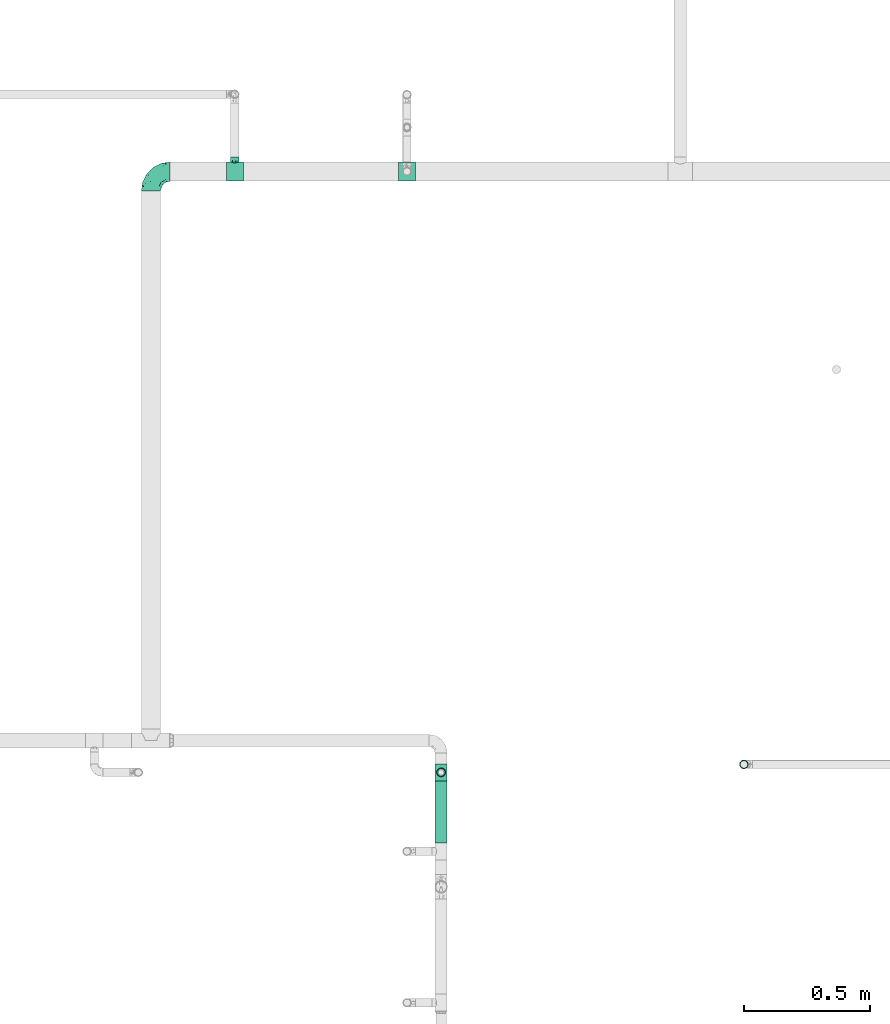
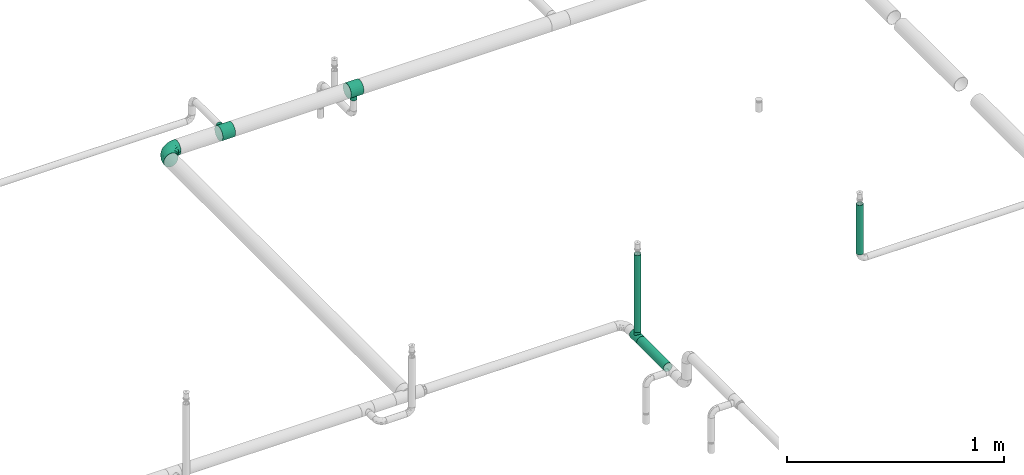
# One storey, part 11 of 157: 4 flow fittings, 3 flow segments.
"""IFC2X3 building model written with IfcOpenShell, lengths in millimetres."""

from ifc_helpers import new_model, entity, si_unit, converted_unit, derived_unit, direction, frame, origin_with_axes, origin_2d_with_axis, place, context, subcontext, project, spatial, hollow_circle, extrude, open_shell, surface_model, source, transform, mapped, type_object, element, save


model = new_model("IFC2X3")

# Units and contexts
model_context = context("Model", 3, precision=0.01, world=frame((0.0, 4.29681676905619e-09, 0.0)), true_north=direction((4.01073788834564e-13, 1.0)))
plan_context = context("Plan", 3, precision=0.01, world=frame((0.0, 4.29681676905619e-09, 0.0)), true_north=direction((4.01073788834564e-13, 1.0)))
body_context = subcontext(model_context, "Body", "Model", "MODEL_VIEW")
ifc_project = project(units=[converted_unit("PLANEANGLEUNIT", "DEGREE", entity("IfcPositiveLengthMeasure", 0.0174532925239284), si_unit("PLANEANGLEUNIT", "RADIAN"), dimensions=[0, 0, 0, 0, 0, 0, 0]), si_unit("AREAUNIT", "SQUARE_METRE"), si_unit("LENGTHUNIT", "METRE", prefix="MILLI"), si_unit("MASSUNIT", "GRAM", prefix="KILO"), si_unit("POWERUNIT", "WATT"), si_unit("PRESSUREUNIT", "PASCAL"), si_unit("FORCEUNIT", "NEWTON", prefix="KILO"), si_unit("ELECTRICCURRENTUNIT", "AMPERE"), si_unit("THERMODYNAMICTEMPERATUREUNIT", "DEGREE_CELSIUS"), si_unit("TIMEUNIT", "SECOND"), si_unit("VOLUMEUNIT", "CUBIC_METRE"), derived_unit("LINEARVELOCITYUNIT", [(si_unit("LENGTHUNIT", "METRE"), 1), (si_unit("TIMEUNIT", "SECOND"), -1)]), derived_unit("VOLUMETRICFLOWRATEUNIT", [(si_unit("VOLUMEUNIT", "CUBIC_METRE"), 1), (si_unit("TIMEUNIT", "SECOND"), -1)]), derived_unit("THERMALTRANSMITTANCEUNIT", [(si_unit("POWERUNIT", "WATT"), 1), (si_unit("THERMODYNAMICTEMPERATUREUNIT", "KELVIN"), -1), (si_unit("AREAUNIT", "SQUARE_METRE"), -1)])], contexts=[model_context, plan_context])

# Site, building, storey
site_placement = place(None, frame((0.0, -4.29681676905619e-09, 0.0), z_axis=(0.0, 0.0, 1.0), x_axis=(1.0, 0.0, 0.0)))
site = spatial("IfcSite", under=ifc_project, at=site_placement, CompositionType="ELEMENT")
building_placement = place(site_placement, frame((0.0, 4.29681676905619e-09, 0.0), z_axis=(0.0, 0.0, 1.0), x_axis=(1.0, 0.0, 0.0)))
building = spatial("IfcBuilding", under=site, at=building_placement, Name="mc-building", CompositionType="ELEMENT")
storey_placement = place(building_placement, frame((0.0, 0.0, 204000.0), z_axis=(0.0, 0.0, 1.0), x_axis=(1.0, 0.0, 0.0)))
storey = spatial("IfcBuildingStorey", under=building, at=storey_placement, Name="Nivå D", CompositionType="ELEMENT", Elevation=204000.0)

# Flow fittings
pipe_fitting_type_1 = type_object("IfcPipeFittingType", Name="magi_pipe_fe_tee_centric_90_NOR", PredefinedType="JUNCTION")
shared_shape_1 = source(origin_with_axes(), body_context, "Body", "SurfaceModel", [
    surface_model("IfcShellBasedSurfaceModel", [(-33.8, 0.0, -24.2), (-33.8, -6.26342, -23.37541), (-33.8, 6.26342, -23.37541), (-33.8, 12.1, -20.95781), (-33.8, 17.11198, -17.11198), (-33.8, 20.95781, -12.1), (-33.8, -23.37541, -6.26342), (-33.8, 23.37541, -6.26342), (-33.8, -17.11198, -17.11198), (-33.8, -20.95781, -12.1), (-33.8, -12.1, -20.95781), (-33.8, -24.2, 0.0), (-33.8, -23.37541, 6.26342), (-33.8, 20.95781, 12.1), (-33.8, 23.37541, 6.26342), (-33.8, 24.2, 0.0), (-33.8, 12.1, 20.95781), (-33.8, 17.11198, 17.11198), (-33.8, -17.11198, 17.11198), (-33.8, 6.26342, 23.37541), (-33.8, -20.95781, 12.1), (-33.8, -12.1, 20.95781), (-33.8, -6.26342, 23.37541), (-33.8, 0.0, 24.2), (33.8, 6.26342, -23.37541), (33.8, -6.26342, -23.37541), (33.8, 0.0, -24.2), (33.8, 17.11198, -17.11198), (33.8, 12.1, -20.95781), (33.8, -23.37541, -6.26342), (33.8, 20.95781, -12.1), (33.8, 23.37541, -6.26342), (33.8, -17.11198, -17.11198), (33.8, -12.1, -20.95781), (33.8, -20.95781, -12.1), (33.8, -24.2, 0.0), (33.8, 24.2, 0.0), (33.8, 23.37541, 6.26342), (33.8, 20.95781, 12.1), (33.8, -23.37541, 6.26342), (33.8, -17.11198, 17.11198), (33.8, 12.1, 20.95781), (33.8, 17.11198, 17.11198), (33.8, 6.26342, 23.37541), (33.8, -20.95781, 12.1), (33.8, -12.1, 20.95781), (33.8, 0.0, 24.2), (33.8, -6.26342, 23.37541), (15.81824, -23.45734, 5.94922), (16.9, -24.2, 0.0), (12.87025, -21.57947, 10.95293), (33.8, -19.0349, 14.60599), (8.52813, -19.30697, 14.59044), (3.03527, -17.5853, 16.6252), (-3.04044, -17.58619, 16.62425), (-8.52961, -19.30762, 14.58958), (-33.8, -19.0349, 14.60599), (-16.9, -24.2, 0.0), (-15.81885, -23.45775, 5.9476), (-12.87368, -21.58151, 10.9489), (3.03527, -17.5853, -16.6252), (33.8, -19.0349, -14.60599), (8.52813, -19.30697, -14.59044), (-8.52961, -19.30762, -14.58958), (-33.8, -19.0349, -14.60599), (12.87025, -21.57947, -10.95293), (-3.04044, -17.58619, -16.62425), (15.81824, -23.45734, -5.94922), (-12.87368, -21.58151, -10.9489), (-15.81885, -23.45775, -5.9476), (4.37404, -36.3, -16.32415), (-16.9, -36.3, 0.0), (0.0, -36.3, -16.9), (14.63583, -36.3, -8.45), (8.45, -36.3, -14.63583), (16.32415, -36.3, -4.37404), (11.9501, -36.3, -11.9501), (-11.9501, -36.3, -11.9501), (-8.45, -36.3, -14.63583), (-4.37404, -36.3, -16.32415), (-14.63583, -36.3, -8.45), (-16.32415, -36.3, -4.37404), (16.9, -36.3, 0.0), (8.45, -36.3, 14.63583), (16.32415, -36.3, 4.37404), (14.63583, -36.3, 8.45), (-8.45, -36.3, 14.63583), (11.9501, -36.3, 11.9501), (4.37404, -36.3, 16.32415), (-16.32415, -36.3, 4.37404), (-11.9501, -36.3, 11.9501), (-14.63583, -36.3, 8.45), (0.0, -36.3, 16.9), (-4.37404, -36.3, 16.32415), (-16.35943, -23.82888, 2.9738), (16.35912, -23.82867, 2.97461), (-0.00259, -17.58575, 16.62472), (16.35912, -23.82867, -2.97461), (-0.00259, -17.58575, -16.62472), (-16.35943, -23.82888, -2.9738)], [open_shell([[[0, 1, 2]], [[3, 2, 4]], [[5, 2, 6]], [[4, 2, 5]], [[7, 5, 6]], [[8, 9, 10]], [[1, 10, 9]], [[1, 9, 2]], [[9, 6, 2]], [[6, 11, 7]], [[11, 12, 7]], [[13, 14, 15]], [[13, 15, 12]], [[16, 17, 18]], [[12, 17, 13]], [[19, 16, 18]], [[20, 18, 12]], [[18, 17, 12]], [[21, 22, 18]], [[23, 18, 22]], [[18, 23, 19]], [[7, 12, 15]], [[24, 25, 26]], [[27, 24, 28]], [[29, 24, 30]], [[30, 24, 27]], [[29, 30, 31]], [[25, 32, 33]], [[32, 25, 34]], [[24, 34, 25]], [[24, 29, 34]], [[31, 35, 29]], [[31, 36, 35]], [[36, 37, 38]], [[39, 36, 38]], [[40, 38, 41]], [[41, 38, 42]], [[40, 41, 43]], [[39, 40, 44]], [[39, 38, 40]], [[45, 46, 47]], [[46, 45, 40]], [[43, 46, 40]], [[36, 39, 35]], [[35, 39, 48]], [[48, 49, 35]], [[39, 50, 48]], [[51, 40, 52]], [[52, 50, 44]], [[53, 52, 40]], [[54, 53, 21]], [[44, 50, 39]], [[55, 18, 56]], [[57, 58, 11]], [[12, 11, 58]], [[58, 59, 12]], [[55, 54, 18]], [[55, 20, 59]], [[20, 55, 56]], [[59, 20, 12]], [[18, 54, 21]], [[52, 44, 51]], [[53, 40, 45]], [[23, 47, 46]], [[22, 45, 47]], [[19, 46, 43]], [[38, 37, 14]], [[17, 41, 42]], [[13, 42, 38]], [[43, 41, 16]], [[15, 37, 36]], [[21, 45, 22]], [[22, 47, 23]], [[19, 23, 46]], [[43, 16, 19]], [[16, 41, 17]], [[13, 17, 42]], [[14, 13, 38]], [[37, 15, 14]], [[45, 21, 53]], [[5, 31, 30]], [[7, 36, 31]], [[4, 30, 27]], [[26, 25, 1]], [[2, 28, 24]], [[0, 24, 26]], [[27, 28, 3]], [[10, 25, 33]], [[15, 36, 7]], [[7, 31, 5]], [[4, 5, 30]], [[27, 3, 4]], [[3, 28, 2]], [[0, 2, 24]], [[1, 0, 26]], [[25, 10, 1]], [[33, 60, 10]], [[61, 34, 62]], [[63, 9, 64]], [[62, 60, 32]], [[34, 65, 62]], [[66, 10, 60]], [[29, 35, 67]], [[67, 65, 29]], [[49, 67, 35]], [[29, 65, 34]], [[66, 63, 8]], [[62, 32, 61]], [[64, 8, 63]], [[63, 68, 9]], [[8, 10, 66]], [[68, 69, 6]], [[69, 11, 6]], [[11, 69, 57]], [[68, 6, 9]], [[60, 33, 32]], [[70, 71, 72]], [[73, 70, 74]], [[73, 75, 70]], [[73, 74, 76]], [[71, 70, 75]], [[72, 77, 78]], [[78, 79, 72]], [[80, 71, 81]], [[77, 72, 80]], [[71, 80, 72]], [[75, 82, 71]], [[83, 82, 84]], [[83, 84, 85]], [[86, 71, 83]], [[83, 85, 87]], [[86, 83, 88]], [[89, 90, 91]], [[90, 89, 86]], [[86, 92, 93]], [[89, 71, 86]], [[88, 92, 86]], [[83, 71, 82]], [[89, 94, 71]], [[59, 91, 90]], [[89, 91, 58]], [[90, 86, 55]], [[89, 58, 94]], [[94, 57, 71]], [[58, 91, 59]], [[95, 48, 84]], [[55, 93, 54]], [[55, 59, 90]], [[92, 53, 96]], [[55, 86, 93]], [[53, 92, 88]], [[83, 52, 88]], [[87, 85, 50]], [[87, 52, 83]], [[48, 85, 84]], [[87, 50, 52]], [[52, 53, 88]], [[82, 95, 84]], [[48, 50, 85]], [[95, 82, 49]], [[92, 54, 93]], [[96, 54, 92]], [[75, 97, 82]], [[65, 73, 76]], [[75, 73, 67]], [[76, 74, 62]], [[97, 49, 82]], [[67, 73, 65]], [[62, 70, 60]], [[62, 65, 76]], [[72, 66, 98]], [[62, 74, 70]], [[99, 71, 57]], [[99, 69, 81]], [[75, 67, 97]], [[79, 66, 72]], [[69, 80, 81]], [[77, 80, 68]], [[72, 60, 70]], [[79, 63, 66]], [[63, 79, 78]], [[78, 77, 63]], [[63, 77, 68]], [[68, 80, 69]], [[71, 99, 81]], [[98, 60, 72]]])]),
])
flow_fitting_1_placement = place(storey_placement, frame((521635.35, 413913.20018, 2690.0), z_axis=(-1.0, 0.0, 0.0), x_axis=(0.0, 1.0, 0.0)))
element("IfcFlowFitting", 1, at=flow_fitting_1_placement, inside=storey, type_object=pipe_fitting_type_1, Name="magi_pipe_fe_tee_centric_90_NOR", context=body_context, shape_type="MappedRepresentation", body=[
    mapped(shared_shape_1, transform((0.0, 0.0, 0.0), scale=1.0)),
])
pipe_fitting_type_2 = type_object("IfcPipeFittingType", Name="magi_pipe_fe_elbow_short_001", PredefinedType="BEND")
shared_shape_2 = source(origin_with_axes(), body_context, "Body", "SurfaceModel", [
    surface_model("IfcShellBasedSurfaceModel", [(-76.2, 19.05, -32.99557), (-76.2, 9.86101, -36.80177), (-76.2, 0.0, -38.1), (-76.2, 26.94077, -26.94077), (-76.2, 36.80177, -9.86101), (-76.2, 32.99557, -19.05), (-76.2, -26.94077, -26.94077), (-76.2, -36.80177, -9.86101), (-76.2, -19.05, -32.99557), (-76.2, -9.86101, -36.80177), (-76.2, -32.99557, -19.05), (-76.2, -38.1, 0.0), (-76.2, -36.80177, 9.86101), (-76.2, 26.94077, 26.94077), (-76.2, 36.80177, 9.86101), (-76.2, 32.99557, 19.05), (-76.2, 9.86101, 36.80177), (-76.2, 19.05, 32.99557), (-76.2, 0.0, 38.1), (-76.2, -32.99557, 19.05), (-76.2, -26.94077, 26.94077), (-76.2, -9.86101, 36.80177), (-76.2, -19.05, 32.99557), (-76.2, 38.1, 0.0), (0.0, 76.2, -38.1), (-9.86101, 76.2, -36.80177), (-19.05, 76.2, -32.99557), (-26.94077, 76.2, -26.94077), (-32.99557, 76.2, -19.05), (-36.80177, 76.2, -9.86101), (26.94077, 76.2, -26.94077), (36.80177, 76.2, -9.86101), (9.86101, 76.2, -36.80177), (19.05, 76.2, -32.99557), (32.99557, 76.2, -19.05), (36.80177, 76.2, 9.86101), (38.1, 76.2, 0.0), (-36.80177, 76.2, 9.86101), (-26.94077, 76.2, 26.94077), (-32.99557, 76.2, 19.05), (-19.05, 76.2, 32.99557), (-9.86101, 76.2, 36.80177), (0.0, 76.2, 38.1), (26.94077, 76.2, 26.94077), (32.99557, 76.2, 19.05), (9.86101, 76.2, 36.80177), (19.05, 76.2, 32.99557), (-38.1, 76.2, 0.0), (-51.47253, -33.41495, 11.97429), (-55.87921, -29.59735, 21.38675), (-40.87936, -32.50576, 0.0), (-57.46182, -35.13216, 0.0), (-9.7569, -13.15819, 14.69187), (-2.65186, -10.17769, 8.01257), (2.20082, -2.20082, 15.78668), (-58.2046, -5.04721, 37.4484), (-53.35237, 5.84022, 38.03506), (13.01533, 9.30417, 14.3119), (23.26567, 31.00373, 18.95093), (8.92292, 13.82363, 24.31711), (-37.93212, -0.34191, 36.92855), (-55.73356, -14.37507, 34.26516), (-29.5907, -8.99996, 31.84562), (-48.87429, -21.76577, 28.30344), (-34.13735, -29.20196, 7.83838), (-24.94775, -24.3882, 0.0), (-13.82363, -8.92292, 24.31711), (-6.80575, 6.80575, 31.14998), (-37.24299, 60.80967, 16.55959), (-31.82754, 59.31737, 25.03043), (-14.22204, 65.71998, 35.68746), (-5.22176, 56.99222, 38.00642), (-58.73143, 14.94265, 35.9909), (-9.94517, 25.51838, 37.4103), (-18.93111, 6.98952, 35.57772), (-3.89226, 20.58438, 35.01344), (-65.91802, 23.07271, 31.04479), (-13.24152, 37.4675, 38.03164), (-28.22122, 28.22122, 37.17425), (-22.68668, 16.64938, 37.90374), (-60.23482, 40.58212, 8.37688), (-60.8286, 37.23683, 16.55705), (-47.30619, 47.30619, 14.2421), (-59.55922, 31.76102, 25.00381), (21.76577, 48.87429, 28.30344), (-39.51357, 50.50487, 21.56421), (14.37507, 55.73356, 34.26516), (29.59735, 55.87921, 21.38675), (33.41495, 51.47253, 11.97429), (-9.01615, -16.27064, 0.0), (-18.50075, -20.95742, 9.87146), (5.04721, 58.2046, 37.4484), (-41.86713, 16.32002, 37.41817), (-37.38612, 9.33613, 38.08374), (24.3882, 24.94775, 0.0), (29.20196, 34.13735, 7.83838), (20.95742, 18.50075, 9.87146), (35.13216, 57.46182, 0.0), (-40.50473, 25.85184, 35.24027), (-31.00373, -23.26567, 18.95093), (-27.62233, 49.24446, 32.02197), (-23.27638, 63.88751, 31.20285), (-40.10509, 61.46399, 8.17366), (-47.75011, 49.97248, 6.70535), (17.55292, 30.69115, 25.82241), (8.99996, 29.5907, 31.84562), (-43.20443, 57.15, 0.0), (-35.27088, 40.23417, 31.3068), (-52.46543, 25.86294, 32.08413), (-0.58232, 0.58231, 22.50977), (-21.74145, 39.43998, 36.62577), (-30.35377, 36.8865, 34.66668), (-16.47755, 51.62643, 36.28492), (-40.16133, 42.54966, 26.98796), (-48.93373, 40.93898, 21.24545), (0.34191, 37.93212, 36.92855), (-30.54899, -16.70018, 26.56572), (10.38979, 2.76708, 7.59679), (32.50576, 40.87936, 0.0), (16.27064, 9.01615, 0.0), (-57.15, 43.20443, 0.0), (3.62725, -3.62725, 0.0), (-56.18403, 32.81229, -25.37784), (-60.79374, 37.24818, -16.56172), (-31.12583, -9.61531, -31.96506), (-33.08389, -0.47526, -36.23756), (-15.30809, -0.63756, -31.219), (-60.31522, 4.8175, -37.976), (-55.58208, -34.10815, -12.42093), (-47.87166, -28.25416, -20.6363), (-36.35476, -28.57081, -12.78243), (-55.4317, 15.55274, -36.12913), (-41.97308, 9.00674, -38.09177), (-32.8123, 56.18403, -25.37784), (-61.68117, 39.97816, -8.33686), (-23.91371, 59.81378, -31.51803), (-15.55274, 55.4317, -36.12913), (-48.48008, 48.48008, -9.09668), (22.76239, 55.12076, -28.76608), (13.14871, 48.24989, -33.88525), (15.02018, 64.34702, -34.67535), (-7.42295, -13.4022, -10.03386), (-7.53093, -9.8797, -17.36177), (4.09889, -3.23385, -10.05311), (-22.23209, 20.60173, -38.07837), (-36.11879, 22.54399, -36.96599), (-59.81378, 23.91371, -31.51803), (-64.14494, -30.32973, -22.13621), (-37.06617, 43.2809, -28.69704), (-35.21221, 35.21221, -33.45314), (-46.56802, 32.18433, -30.26847), (3.32253, -0.70027, -16.3296), (-55.12076, -22.76239, -28.76608), (28.25416, 47.87166, -20.6363), (34.10815, 55.58208, -12.42093), (28.57081, 36.35476, -12.78243), (-64.34702, -15.02018, -34.67535), (4.80394, 56.13349, -37.40338), (-24.08639, -18.54476, -20.78452), (-28.44745, -15.54194, -26.65272), (-13.81153, -9.41447, -23.82138), (-41.58053, -17.39667, -29.91543), (-48.24989, -13.14871, -33.88525), (-56.1335, -4.80394, -37.40338), (-28.5499, 46.87201, -32.27447), (-39.97816, 61.68117, -8.33686), (-4.8175, 60.31522, -37.976), (-13.45022, 13.45022, -35.97664), (0.47526, 33.08389, -36.23756), (1.60394, 17.89715, -31.77365), (-37.24818, 60.79374, -16.56172), (-45.75928, 45.75928, -18.77942), (30.32973, 64.14494, -22.13621), (22.08018, 30.6107, -20.46174), (12.28189, 14.44402, -21.13272), (15.54194, 28.44745, -26.65272), (7.87454, 32.5264, -33.28409), (-9.00674, 41.97308, -38.09177), (-46.32128, 24.51975, -34.33978), (-22.71812, 37.0764, -36.7817), (-0.36118, 0.36118, -22.07635), (-17.64772, -21.30183, -6.55407), (19.53658, 18.92928, -14.18962), (21.30183, 17.64772, -6.55407), (4.4885, 11.61303, -26.72553), (-18.92929, -19.53658, -14.18962)], [open_shell([[[0, 1, 2]], [[3, 0, 2]], [[4, 5, 3]], [[6, 3, 2]], [[4, 3, 7]], [[8, 6, 9]], [[6, 2, 9]], [[10, 7, 6]], [[6, 7, 3]], [[11, 12, 7]], [[12, 4, 7]], [[13, 14, 4]], [[15, 14, 13]], [[16, 17, 13]], [[4, 12, 13]], [[13, 18, 16]], [[19, 20, 12]], [[21, 12, 20]], [[22, 21, 20]], [[21, 13, 12]], [[21, 18, 13]], [[23, 4, 14]], [[24, 25, 26]], [[24, 26, 27]], [[27, 28, 29]], [[24, 27, 30]], [[31, 27, 29]], [[32, 30, 33]], [[32, 24, 30]], [[30, 31, 34]], [[27, 31, 30]], [[31, 35, 36]], [[31, 29, 35]], [[29, 37, 38]], [[38, 37, 39]], [[38, 40, 41]], [[29, 38, 35]], [[42, 38, 41]], [[35, 43, 44]], [[43, 35, 45]], [[43, 45, 46]], [[35, 38, 45]], [[38, 42, 45]], [[37, 29, 47]], [[48, 49, 19]], [[50, 48, 51]], [[52, 53, 54]], [[12, 48, 19]], [[12, 51, 48]], [[18, 55, 56]], [[19, 49, 20]], [[57, 58, 59]], [[60, 61, 62]], [[63, 22, 20]], [[63, 61, 22]], [[64, 50, 65]], [[62, 66, 67]], [[39, 68, 69]], [[41, 70, 71]], [[16, 72, 17]], [[73, 74, 75]], [[17, 76, 13]], [[21, 55, 18]], [[77, 78, 79]], [[80, 81, 82]], [[15, 83, 81]], [[84, 43, 46]], [[23, 14, 80]], [[14, 15, 81]], [[68, 85, 69]], [[83, 15, 13]], [[18, 56, 16]], [[46, 86, 84]], [[13, 76, 83]], [[87, 58, 88]], [[39, 37, 68]], [[89, 90, 65]], [[42, 91, 45]], [[65, 90, 64]], [[42, 41, 71]], [[92, 93, 79]], [[88, 35, 44]], [[44, 43, 87]], [[87, 88, 44]], [[94, 95, 96]], [[88, 97, 35]], [[98, 72, 92]], [[49, 99, 63]], [[69, 100, 101]], [[82, 102, 103]], [[104, 105, 59]], [[106, 102, 47]], [[98, 107, 108]], [[102, 82, 68]], [[86, 46, 45]], [[69, 38, 39]], [[109, 54, 57]], [[110, 100, 111]], [[22, 61, 21]], [[101, 40, 38]], [[70, 41, 40]], [[112, 77, 71]], [[84, 86, 105]], [[96, 95, 58]], [[100, 69, 113]], [[72, 16, 56]], [[108, 113, 83]], [[81, 114, 82]], [[112, 110, 77]], [[91, 71, 115]], [[62, 61, 63]], [[55, 61, 60]], [[116, 99, 66]], [[74, 62, 67]], [[91, 86, 45]], [[105, 86, 115]], [[75, 105, 115]], [[109, 67, 66]], [[59, 105, 67]], [[48, 64, 99]], [[99, 49, 48]], [[63, 20, 49]], [[43, 84, 87]], [[58, 87, 84]], [[92, 72, 56]], [[76, 72, 108]], [[102, 68, 37]], [[82, 114, 85]], [[98, 111, 107]], [[112, 70, 101]], [[114, 83, 113]], [[82, 103, 80]], [[92, 79, 78]], [[115, 71, 77]], [[74, 79, 60]], [[77, 79, 73]], [[71, 91, 42]], [[86, 91, 115]], [[61, 55, 21]], [[56, 55, 60]], [[57, 54, 117]], [[104, 59, 58]], [[116, 66, 62]], [[52, 99, 90]], [[12, 11, 51]], [[97, 88, 118]], [[97, 36, 35]], [[53, 90, 89]], [[90, 53, 52]], [[94, 96, 119]], [[88, 95, 118]], [[117, 54, 53]], [[92, 56, 93]], [[98, 92, 78]], [[111, 98, 78]], [[72, 98, 108]], [[110, 111, 78]], [[107, 111, 100]], [[47, 102, 37]], [[102, 106, 103]], [[106, 120, 103]], [[103, 120, 80]], [[23, 80, 120]], [[14, 81, 80]], [[56, 60, 93]], [[60, 79, 93]], [[117, 121, 119]], [[121, 117, 53]], [[53, 89, 121]], [[119, 96, 117]], [[117, 96, 57]], [[77, 110, 78]], [[100, 110, 112]], [[83, 114, 81]], [[85, 114, 113]], [[69, 85, 113]], [[82, 85, 68]], [[109, 52, 54]], [[99, 52, 66]], [[69, 101, 38]], [[112, 101, 100]], [[100, 113, 107]], [[108, 107, 113]], [[62, 74, 60]], [[75, 74, 67]], [[105, 75, 67]], [[73, 75, 115]], [[77, 73, 115]], [[74, 73, 79]], [[99, 64, 90]], [[50, 64, 48]], [[118, 95, 94]], [[58, 95, 88]], [[58, 57, 96]], [[109, 57, 59]], [[72, 76, 17]], [[83, 76, 108]], [[101, 70, 40]], [[71, 70, 112]], [[58, 84, 104]], [[105, 104, 84]], [[67, 109, 59]], [[52, 109, 66]], [[62, 63, 116]], [[99, 116, 63]], [[122, 5, 123]], [[124, 125, 126]], [[2, 1, 127]], [[128, 129, 130]], [[127, 131, 132]], [[28, 27, 133]], [[120, 134, 23]], [[135, 26, 136]], [[123, 134, 137]], [[138, 139, 140]], [[122, 3, 5]], [[141, 142, 143]], [[144, 132, 145]], [[131, 0, 146]], [[128, 10, 147]], [[148, 149, 150]], [[128, 51, 7]], [[142, 151, 143]], [[152, 6, 8]], [[153, 154, 155]], [[156, 152, 8]], [[32, 157, 24]], [[158, 159, 160]], [[147, 10, 6]], [[129, 152, 161]], [[156, 8, 9]], [[162, 163, 125]], [[154, 34, 31]], [[120, 106, 137]], [[149, 148, 164]], [[47, 29, 165]], [[163, 9, 2]], [[5, 4, 123]], [[25, 166, 136]], [[167, 168, 169]], [[170, 133, 171]], [[25, 24, 166]], [[33, 30, 138]], [[157, 32, 140]], [[29, 28, 170]], [[30, 34, 172]], [[26, 135, 27]], [[132, 131, 145]], [[32, 33, 140]], [[173, 174, 175]], [[169, 168, 176]], [[25, 136, 26]], [[175, 138, 173]], [[168, 177, 157]], [[163, 162, 156]], [[153, 172, 154]], [[10, 128, 7]], [[154, 97, 118]], [[131, 178, 145]], [[0, 3, 146]], [[175, 139, 138]], [[155, 118, 94]], [[131, 1, 0]], [[146, 178, 131]], [[170, 137, 165]], [[149, 179, 145]], [[171, 133, 148]], [[160, 180, 142]], [[65, 181, 89]], [[170, 165, 29]], [[137, 171, 123]], [[172, 138, 30]], [[138, 153, 173]], [[168, 157, 139]], [[166, 157, 177]], [[176, 175, 169]], [[168, 167, 144]], [[154, 31, 97]], [[155, 182, 173]], [[162, 124, 161]], [[147, 152, 129]], [[127, 163, 2]], [[132, 144, 125]], [[132, 125, 163]], [[125, 167, 126]], [[129, 158, 130]], [[31, 36, 97]], [[143, 182, 183]], [[169, 126, 167]], [[3, 122, 146]], [[178, 150, 149]], [[136, 179, 164]], [[133, 27, 135]], [[123, 4, 134]], [[122, 123, 171]], [[133, 170, 28]], [[137, 170, 171]], [[184, 175, 174]], [[180, 160, 126]], [[126, 169, 184]], [[126, 159, 124]], [[51, 128, 50]], [[51, 11, 7]], [[131, 127, 1]], [[163, 127, 132]], [[157, 166, 24]], [[136, 166, 177]], [[164, 179, 149]], [[144, 167, 125]], [[179, 144, 145]], [[168, 144, 177]], [[136, 177, 179]], [[144, 179, 177]], [[141, 121, 89]], [[89, 181, 141]], [[154, 118, 155]], [[183, 155, 94]], [[143, 183, 119]], [[119, 183, 94]], [[155, 183, 182]], [[181, 130, 185]], [[50, 128, 130]], [[130, 181, 65]], [[50, 130, 65]], [[141, 181, 185]], [[142, 141, 185]], [[143, 121, 141]], [[158, 160, 142]], [[142, 180, 151]], [[158, 142, 185]], [[126, 160, 159]], [[130, 158, 185]], [[129, 159, 158]], [[23, 134, 4]], [[120, 137, 134]], [[137, 106, 165]], [[47, 165, 106]], [[174, 151, 180]], [[182, 143, 151]], [[150, 146, 122]], [[149, 145, 178]], [[146, 150, 178]], [[122, 171, 148]], [[148, 150, 122]], [[164, 133, 135]], [[133, 164, 148]], [[164, 135, 136]], [[138, 140, 33]], [[157, 140, 139]], [[154, 172, 34]], [[138, 172, 153]], [[163, 156, 9]], [[152, 156, 162]], [[152, 147, 6]], [[128, 147, 129]], [[155, 173, 153]], [[174, 173, 182]], [[151, 174, 182]], [[174, 180, 184]], [[126, 184, 180]], [[175, 184, 169]], [[168, 139, 176]], [[175, 176, 139]], [[161, 124, 159]], [[125, 124, 162]], [[129, 161, 159]], [[162, 161, 152]], [[143, 119, 121]]])]),
])
flow_fitting_2_placement = place(storey_placement, frame((520485.24954, 416294.70476, 2690.0), z_axis=(0.0, 0.0, 1.0), x_axis=(-1.0, 0.0, 0.0)))
element("IfcFlowFitting", 2, at=flow_fitting_2_placement, inside=storey, type_object=pipe_fitting_type_2, Name="magi_pipe_fe_elbow_short_001", context=body_context, shape_type="MappedRepresentation", body=[
    mapped(shared_shape_2, transform((0.0, 0.0, 0.0), scale=1.0)),
])
shared_shape_3 = source(origin_with_axes(), body_context, "Body", "SurfaceModel", [
    surface_model("IfcShellBasedSurfaceModel", [(-33.8, 9.86101, -36.80177), (-33.8, 0.0, -38.1), (-33.8, 36.80177, -9.86101), (-33.8, 19.05, -32.99557), (-33.8, 32.99557, -19.05), (-33.8, 26.94077, -26.94077), (-33.8, -38.1, 0.0), (-33.8, -19.05, -32.99557), (-33.8, -26.94077, -26.94077), (-33.8, -9.86101, -36.80177), (-33.8, -32.99557, -19.05), (-33.8, -36.80177, -9.86101), (-33.8, 38.1, 0.0), (-33.8, 32.99557, 19.05), (-33.8, 36.80177, 9.86101), (-33.8, -36.80177, 9.86101), (-33.8, 19.05, 32.99557), (-33.8, 26.94077, 26.94077), (-33.8, 9.86101, 36.80177), (-33.8, 0.0, 38.1), (-33.8, -26.94077, 26.94077), (-33.8, -32.99557, 19.05), (-33.8, -9.86101, 36.80177), (-33.8, -19.05, 32.99557), (33.8, 0.0, -38.1), (33.8, 9.86101, -36.80177), (33.8, 19.05, -32.99557), (33.8, 26.94077, -26.94077), (33.8, 32.99557, -19.05), (33.8, 36.80177, -9.86101), (33.8, -38.1, 0.0), (33.8, -9.86101, -36.80177), (33.8, -26.94077, -26.94077), (33.8, -19.05, -32.99557), (33.8, -32.99557, -19.05), (33.8, -36.80177, -9.86101), (33.8, 36.80177, 9.86101), (33.8, 32.99557, 19.05), (33.8, 19.05, 32.99557), (33.8, 0.0, 38.1), (33.8, 26.94077, 26.94077), (33.8, 9.86101, 36.80177), (33.8, -26.94077, 26.94077), (33.8, -32.99557, 19.05), (33.8, -36.80177, 9.86101), (33.8, -19.05, 32.99557), (33.8, -9.86101, 36.80177), (33.8, 38.1, 0.0), (33.8, -37.45089, 4.9305), (15.86072, -37.65053, 5.83504), (16.9, -38.1, 0.0), (12.92726, -36.51183, 10.88559), (2.96752, -34.27545, 16.63742), (33.8, -34.89867, 14.4555), (8.48894, -35.18611, 14.61328), (-8.4904, -35.18646, 14.61243), (-33.8, -34.89867, 14.4555), (-15.8612, -37.65073, 5.83372), (-33.8, -37.45089, 4.9305), (-16.9, -38.1, 0.0), (-12.9317, -36.51341, 10.88031), (-2.97221, -34.27585, 16.63658), (-33.8, -37.45089, -4.9305), (-15.8612, -37.65073, -5.83372), (15.86072, -37.65053, -5.83504), (33.8, -37.45089, -4.9305), (-12.9317, -36.51341, -10.88031), (-33.8, -34.89867, -14.4555), (-8.4904, -35.18646, -14.61243), (2.96752, -34.27545, -16.63742), (8.48894, -35.18611, -14.61328), (33.8, -34.89867, -14.4555), (12.92726, -36.51183, -10.88559), (-2.97221, -34.27585, -16.63658), (4.37404, -57.15, -16.32415), (-16.9, -57.15, 0.0), (0.0, -57.15, -16.9), (14.63583, -57.15, -8.45), (8.45, -57.15, -14.63583), (16.32415, -57.15, -4.37404), (11.9501, -57.15, -11.9501), (-11.9501, -57.15, -11.9501), (-8.45, -57.15, -14.63583), (-4.37404, -57.15, -16.32415), (-14.63583, -57.15, -8.45), (-16.32415, -57.15, -4.37404), (16.9, -57.15, 0.0), (8.45, -57.15, 14.63583), (16.32415, -57.15, 4.37404), (14.63583, -57.15, 8.45), (-8.45, -57.15, 14.63583), (11.9501, -57.15, 11.9501), (4.37404, -57.15, 16.32415), (-16.32415, -57.15, 4.37404), (-11.9501, -57.15, 11.9501), (-14.63583, -57.15, 8.45), (0.0, -57.15, 16.9), (-4.37404, -57.15, 16.32415), (-16.3806, -37.87537, 2.91686), (-5.7313, -34.73116, 15.62451), (-0.00235, -34.27565, 16.637), (5.72823, -34.73078, 15.62535), (16.38036, -37.87526, 2.91752), (16.38036, -37.87526, -2.91752), (5.72823, -34.73078, -15.62535), (-0.00235, -34.27565, -16.637), (-5.7313, -34.73116, -15.62451), (-16.3806, -37.87537, -2.91686)], [open_shell([[[0, 1, 2]], [[3, 0, 2]], [[2, 4, 5]], [[3, 2, 5]], [[6, 2, 1]], [[7, 8, 9]], [[8, 1, 9]], [[10, 11, 8]], [[6, 8, 11]], [[8, 6, 1]], [[6, 12, 2]], [[13, 14, 12]], [[15, 13, 6]], [[16, 13, 15]], [[17, 13, 16]], [[18, 16, 19]], [[20, 19, 21]], [[16, 15, 21]], [[22, 19, 23]], [[20, 23, 19]], [[21, 19, 16]], [[12, 6, 13]], [[24, 25, 26]], [[24, 26, 27]], [[27, 28, 29]], [[24, 27, 30]], [[30, 27, 29]], [[31, 32, 33]], [[31, 24, 32]], [[34, 30, 35]], [[30, 34, 32]], [[24, 30, 32]], [[29, 36, 30]], [[36, 37, 30]], [[30, 37, 38]], [[38, 39, 30]], [[38, 37, 40]], [[39, 38, 41]], [[30, 42, 43]], [[44, 30, 43]], [[45, 39, 46]], [[45, 42, 30]], [[30, 39, 45]], [[36, 29, 47]], [[48, 44, 49]], [[50, 30, 48]], [[44, 51, 49]], [[43, 42, 52]], [[50, 48, 49]], [[44, 53, 51]], [[52, 54, 43]], [[42, 20, 52]], [[54, 53, 43]], [[55, 21, 56]], [[57, 58, 59]], [[6, 59, 58]], [[57, 60, 15]], [[55, 61, 21]], [[51, 53, 54]], [[15, 60, 56]], [[21, 61, 20]], [[56, 60, 55]], [[61, 52, 20]], [[57, 15, 58]], [[42, 23, 20]], [[19, 46, 39]], [[22, 45, 46]], [[18, 39, 41]], [[37, 36, 14]], [[17, 38, 40]], [[13, 40, 37]], [[41, 38, 16]], [[12, 36, 47]], [[23, 45, 22]], [[22, 46, 19]], [[18, 19, 39]], [[41, 16, 18]], [[16, 38, 17]], [[13, 17, 40]], [[14, 13, 37]], [[36, 12, 14]], [[45, 23, 42]], [[12, 47, 29]], [[29, 28, 2]], [[59, 62, 63]], [[27, 4, 28]], [[9, 24, 31]], [[0, 26, 25]], [[64, 35, 65]], [[24, 1, 25]], [[31, 33, 7]], [[27, 26, 5]], [[66, 67, 68]], [[4, 2, 28]], [[12, 29, 2]], [[27, 5, 4]], [[3, 26, 0]], [[26, 3, 5]], [[0, 25, 1]], [[9, 1, 24]], [[31, 7, 9]], [[33, 8, 7]], [[32, 34, 69]], [[70, 34, 71]], [[70, 69, 34]], [[35, 72, 71]], [[32, 69, 8]], [[30, 50, 65]], [[64, 72, 35]], [[64, 65, 50]], [[72, 70, 71]], [[73, 68, 10]], [[10, 8, 73]], [[68, 67, 10]], [[73, 8, 69]], [[66, 63, 11]], [[63, 62, 11]], [[62, 59, 6]], [[11, 67, 66]], [[32, 8, 33]], [[74, 75, 76]], [[77, 74, 78]], [[77, 79, 74]], [[77, 78, 80]], [[75, 74, 79]], [[76, 81, 82]], [[82, 83, 76]], [[84, 75, 85]], [[81, 76, 84]], [[75, 84, 76]], [[79, 86, 75]], [[87, 86, 88]], [[87, 88, 89]], [[90, 75, 87]], [[87, 89, 91]], [[90, 87, 92]], [[93, 94, 95]], [[94, 93, 90]], [[90, 96, 97]], [[93, 75, 90]], [[92, 96, 90]], [[87, 75, 86]], [[93, 98, 75]], [[60, 95, 94]], [[93, 95, 57]], [[94, 90, 55]], [[98, 59, 75]], [[57, 95, 60]], [[97, 61, 99]], [[55, 60, 94]], [[96, 52, 100]], [[87, 101, 92]], [[99, 90, 97]], [[99, 55, 90]], [[93, 57, 98]], [[92, 52, 96]], [[49, 89, 88]], [[102, 86, 50]], [[102, 49, 88]], [[91, 89, 51]], [[96, 61, 97]], [[101, 52, 92]], [[87, 54, 101]], [[87, 91, 54]], [[54, 91, 51]], [[51, 89, 49]], [[86, 102, 88]], [[100, 61, 96]], [[79, 103, 86]], [[72, 77, 80]], [[79, 77, 64]], [[80, 78, 70]], [[103, 50, 86]], [[64, 77, 72]], [[74, 69, 104]], [[70, 72, 80]], [[76, 73, 105]], [[82, 106, 83]], [[107, 75, 59]], [[104, 78, 74]], [[104, 70, 78]], [[68, 82, 81]], [[79, 64, 103]], [[63, 84, 85]], [[107, 63, 85]], [[84, 66, 81]], [[76, 69, 74]], [[83, 106, 73]], [[73, 76, 83]], [[68, 106, 82]], [[68, 81, 66]], [[66, 84, 63]], [[75, 107, 85]], [[105, 69, 76]]])]),
])
for number, where, z_axis, x_axis, name in (
    (3, (521500.0, 416294.70476, 2690.0), (0.0, -1.0, 0.0), (1.0, 0.0, 0.0), "magi_pipe_fe_tee_centric_90_NOR"),
    (4, (520817.55946, 416294.70476, 2690.0), (0.0, 0.0, -1.0), (1.0, 0.0, 0.0), "magi_pipe_fe_tee_centric_90_NOR"),
):
    element("IfcFlowFitting", number, at=place(storey_placement, frame(where, z_axis=z_axis, x_axis=x_axis)), inside=storey, type_object=pipe_fitting_type_1, Name=name, context=body_context, shape_type="MappedRepresentation", body=[
        mapped(shared_shape_3, transform((0.0, 0.0, 0.0), scale=1.0)),
    ])

# Flow segments
pipe_segment_type = type_object("IfcPipeSegmentType", Name="Stålrør normaltykke", PredefinedType="RIGIDSEGMENT")
shared_shape_4 = source(origin_with_axes(), body_context, "Body", "SweptSolid", [
    extrude(hollow_circle(Radius=16.9, WallThickness=2.0, at=origin_2d_with_axis()), frame((0.0, 0.0, 0.0), z_axis=(1.0, 0.0, 0.0), x_axis=(0.0, 1.0, 0.0)), (0.0, 0.0, 1.0), 278.3),
])
flow_segment_1_placement = place(storey_placement, frame((522835.35, 413944.735, 3002.14799999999), z_axis=(0.0, 1.0, 0.0), x_axis=(0.0, 0.0, -1.0)))
element("IfcFlowSegment", 5, at=flow_segment_1_placement, inside=storey, type_object=pipe_segment_type, Name="Stålrør normaltykke", context=body_context, shape_type="MappedRepresentation", body=[
    mapped(shared_shape_4, transform((0.0, 0.0, 0.0), scale=1.0)),
])
shared_shape_5 = source(origin_with_axes(), body_context, "Body", "SweptSolid", [
    extrude(hollow_circle(Radius=16.9, WallThickness=2.0, at=origin_2d_with_axis()), frame((0.0, 0.0, 0.0), z_axis=(1.0, 0.0, 0.0), x_axis=(0.0, 1.0, 0.0)), (0.0, 0.0, 1.0), 433.8),
])
flow_segment_2_placement = place(storey_placement, frame((521635.35, 413913.20018, 3160.14799999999), z_axis=(0.0, 1.0, 0.0), x_axis=(0.0, 0.0, -1.0)))
element("IfcFlowSegment", 6, at=flow_segment_2_placement, inside=storey, type_object=pipe_segment_type, Name="Stålrør normaltykke", context=body_context, shape_type="MappedRepresentation", body=[
    mapped(shared_shape_5, transform((0.0, 0.0, 0.0), scale=1.0)),
])
shared_shape_6 = source(origin_with_axes(), body_context, "Body", "SweptSolid", [
    extrude(hollow_circle(Radius=24.1, WallThickness=2.0, at=origin_2d_with_axis()), frame((0.0, 0.0, 0.0), z_axis=(1.0, 0.0, 0.0), x_axis=(0.0, 1.0, 0.0)), (0.0, 0.0, 1.0), 245.6),
])
flow_segment_3_placement = place(storey_placement, frame((521635.35, 413879.40018, 2690.0), z_axis=(0.0, 0.0, 1.0), x_axis=(0.0, -1.0, 0.0)))
element("IfcFlowSegment", 7, at=flow_segment_3_placement, inside=storey, type_object=pipe_segment_type, Name="Stålrør normaltykke", context=body_context, shape_type="MappedRepresentation", body=[
    mapped(shared_shape_6, transform((0.0, 0.0, 0.0), scale=1.0)),
])

save(model, "model.ifc")
